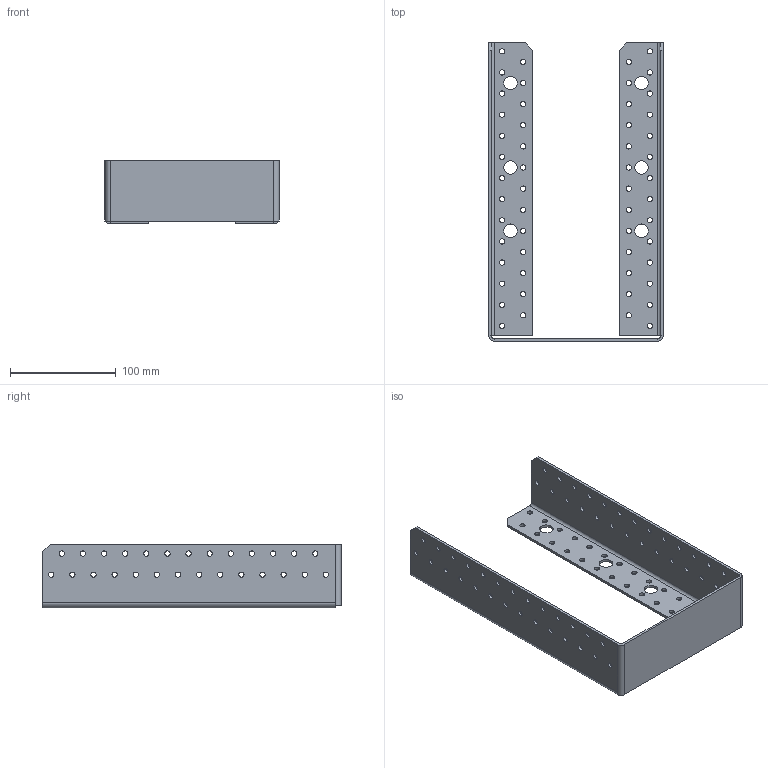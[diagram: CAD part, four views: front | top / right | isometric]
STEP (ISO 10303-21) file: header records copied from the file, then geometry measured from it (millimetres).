
FILE_DESCRIPTION (( 'STEP AP203' ), '1' );
FILE_NAME ('40519IKO.STEP', '2021-04-16T09:20:56', ( '' ), ( '' ), 'SwSTEP 2.0', 'SolidWorks 2013', '' );
FILE_SCHEMA (( 'CONFIG_CONTROL_DESIGN' ));
Length unit declared in the file: millimetre
Products named in the file (1): 40519IKO
Bounding box: 165 x 282.5 x 60.5 mm (x, y, z)
Volume: 152468.9 mm3; surface area: 131087.8 mm2
Topology: 1 solids, 1 shells, 272 faces, 780 edges, 510 vertices
Faces by surface type: cylinder 236, plane 36
Entity records: 9671 total; most frequent: DIRECTION 1800, CARTESIAN_POINT 1563, ORIENTED_EDGE 1560, EDGE_CURVE 780, AXIS2_PLACEMENT_3D 747, VERTEX_POINT 510, EDGE_LOOP 500, CIRCLE 474
